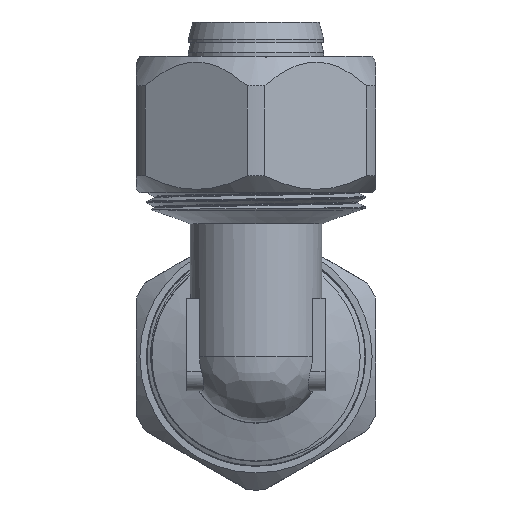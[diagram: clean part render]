
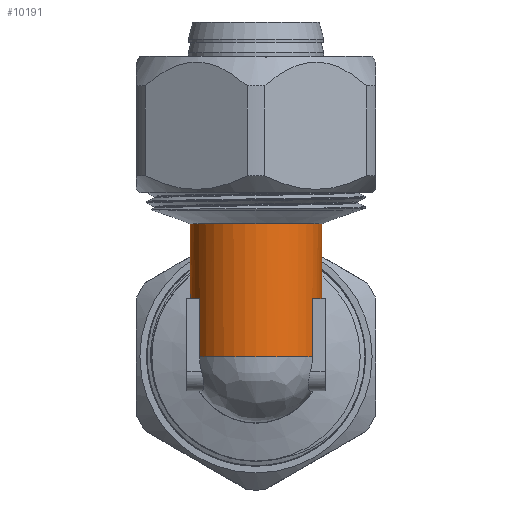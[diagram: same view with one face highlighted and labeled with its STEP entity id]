
A CAD part, front view. The second image highlights one B-rep face of the part: STEP entity #10191.
In plain terms, the highlighted cylindrical face has radius 9.65 mm (diameter 19.3 mm), a full revolution.
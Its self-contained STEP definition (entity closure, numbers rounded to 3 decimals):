
#374=ELLIPSE('',#10898,13.647,9.65);
#643=CYLINDRICAL_SURFACE('',#10896,9.65);
#1404=FACE_OUTER_BOUND('',#1993,.T.);
#1993=EDGE_LOOP('',(#6982,#6983,#6984,#6985,#6986,#6987,#6988,#6989,#6990,
#6991,#6992,#6993,#6994,#6995));
#2630=LINE('',#13435,#3290);
#2631=LINE('',#13439,#3291);
#2632=LINE('',#13443,#3292);
#2633=LINE('',#13447,#3293);
#2634=LINE('',#13451,#3294);
#3290=VECTOR('',#11548,9.65);
#3291=VECTOR('',#11551,10.);
#3292=VECTOR('',#11554,10.);
#3293=VECTOR('',#11557,10.);
#3294=VECTOR('',#11560,10.);
#3946=CIRCLE('',#10865,9.65);
#3947=CIRCLE('',#10866,9.65);
#3948=CIRCLE('',#10867,9.65);
#3968=CIRCLE('',#10897,9.65);
#3969=CIRCLE('',#10899,9.65);
#3970=CIRCLE('',#10900,9.65);
#3971=CIRCLE('',#10901,9.65);
#4212=VERTEX_POINT('',#13375);
#4213=VERTEX_POINT('',#13377);
#4214=VERTEX_POINT('',#13379);
#4233=VERTEX_POINT('',#13434);
#4234=VERTEX_POINT('',#13436);
#4235=VERTEX_POINT('',#13438);
#4236=VERTEX_POINT('',#13440);
#4237=VERTEX_POINT('',#13442);
#4238=VERTEX_POINT('',#13444);
#4239=VERTEX_POINT('',#13446);
#4240=VERTEX_POINT('',#13448);
#4241=VERTEX_POINT('',#13450);
#5308=EDGE_CURVE('',#4213,#4212,#3946,.T.);
#5309=EDGE_CURVE('',#4214,#4213,#3947,.T.);
#5310=EDGE_CURVE('',#4212,#4214,#3948,.T.);
#5335=EDGE_CURVE('',#4212,#4233,#2630,.T.);
#5336=EDGE_CURVE('',#4233,#4234,#3968,.T.);
#5337=EDGE_CURVE('',#4234,#4235,#2631,.T.);
#5338=EDGE_CURVE('',#4236,#4235,#374,.T.);
#5339=EDGE_CURVE('',#4236,#4237,#2632,.T.);
#5340=EDGE_CURVE('',#4237,#4238,#3969,.T.);
#5341=EDGE_CURVE('',#4238,#4239,#2633,.T.);
#5342=EDGE_CURVE('',#4239,#4240,#3970,.T.);
#5343=EDGE_CURVE('',#4240,#4241,#2634,.T.);
#5344=EDGE_CURVE('',#4241,#4233,#3971,.T.);
#6982=ORIENTED_EDGE('',*,*,#5308,.T.);
#6983=ORIENTED_EDGE('',*,*,#5335,.T.);
#6984=ORIENTED_EDGE('',*,*,#5336,.T.);
#6985=ORIENTED_EDGE('',*,*,#5337,.T.);
#6986=ORIENTED_EDGE('',*,*,#5338,.F.);
#6987=ORIENTED_EDGE('',*,*,#5339,.T.);
#6988=ORIENTED_EDGE('',*,*,#5340,.T.);
#6989=ORIENTED_EDGE('',*,*,#5341,.T.);
#6990=ORIENTED_EDGE('',*,*,#5342,.T.);
#6991=ORIENTED_EDGE('',*,*,#5343,.T.);
#6992=ORIENTED_EDGE('',*,*,#5344,.T.);
#6993=ORIENTED_EDGE('',*,*,#5335,.F.);
#6994=ORIENTED_EDGE('',*,*,#5310,.T.);
#6995=ORIENTED_EDGE('',*,*,#5309,.T.);
#10191=ADVANCED_FACE('',(#1404),#643,.T.);
#10865=AXIS2_PLACEMENT_3D('',#13378,#11479,#11480);
#10866=AXIS2_PLACEMENT_3D('',#13380,#11481,#11482);
#10867=AXIS2_PLACEMENT_3D('',#13381,#11483,#11484);
#10896=AXIS2_PLACEMENT_3D('',#13433,#11546,#11547);
#10897=AXIS2_PLACEMENT_3D('',#13437,#11549,#11550);
#10898=AXIS2_PLACEMENT_3D('',#13441,#11552,#11553);
#10899=AXIS2_PLACEMENT_3D('',#13445,#11555,#11556);
#10900=AXIS2_PLACEMENT_3D('',#13449,#11558,#11559);
#10901=AXIS2_PLACEMENT_3D('',#13452,#11561,#11562);
#11479=DIRECTION('center_axis',(0.,0.,-1.));
#11480=DIRECTION('ref_axis',(1.,0.,0.));
#11481=DIRECTION('center_axis',(0.,0.,-1.));
#11482=DIRECTION('ref_axis',(-1.,0.,0.));
#11483=DIRECTION('center_axis',(0.,0.,-1.));
#11484=DIRECTION('ref_axis',(1.,0.,0.));
#11546=DIRECTION('center_axis',(0.,0.,1.));
#11547=DIRECTION('ref_axis',(-1.,0.,0.));
#11548=DIRECTION('',(0.,0.,-1.));
#11549=DIRECTION('center_axis',(0.,0.,1.));
#11550=DIRECTION('ref_axis',(-1.,0.,0.));
#11551=DIRECTION('',(0.,0.,-1.));
#11552=DIRECTION('center_axis',(0.,0.707,-0.707));
#11553=DIRECTION('ref_axis',(0.,-0.707,-0.707));
#11554=DIRECTION('',(0.,0.,1.));
#11555=DIRECTION('center_axis',(0.,0.,1.));
#11556=DIRECTION('ref_axis',(-1.,0.,0.));
#11557=DIRECTION('',(0.,0.,-1.));
#11558=DIRECTION('center_axis',(0.,0.,1.));
#11559=DIRECTION('ref_axis',(-1.,0.,0.));
#11560=DIRECTION('',(0.,0.,1.));
#11561=DIRECTION('center_axis',(0.,0.,1.));
#11562=DIRECTION('ref_axis',(-1.,0.,0.));
#13375=CARTESIAN_POINT('',(9.65,-32.,19.451));
#13377=CARTESIAN_POINT('',(0.,-22.35,19.451));
#13378=CARTESIAN_POINT('Origin',(0.,-32.,19.451));
#13379=CARTESIAN_POINT('',(0.,-41.65,19.451));
#13380=CARTESIAN_POINT('Origin',(0.,-32.,19.451));
#13381=CARTESIAN_POINT('Origin',(0.,-32.,19.451));
#13433=CARTESIAN_POINT('Origin',(0.,-32.,0.));
#13434=CARTESIAN_POINT('',(9.65,-32.,8.5));
#13435=CARTESIAN_POINT('',(9.65,-32.,0.));
#13436=CARTESIAN_POINT('',(8.254,-27.,8.5));
#13437=CARTESIAN_POINT('Origin',(0.,-32.,8.5));
#13438=CARTESIAN_POINT('',(8.254,-27.,5.));
#13439=CARTESIAN_POINT('',(8.254,-27.,0.));
#13440=CARTESIAN_POINT('',(-8.254,-27.,5.));
#13441=CARTESIAN_POINT('Origin',(0.,-32.,0.));
#13442=CARTESIAN_POINT('',(-8.254,-27.,8.5));
#13443=CARTESIAN_POINT('',(-8.254,-27.,0.));
#13444=CARTESIAN_POINT('',(-8.254,-37.,8.5));
#13445=CARTESIAN_POINT('Origin',(0.,-32.,8.5));
#13446=CARTESIAN_POINT('',(-8.254,-37.,0.));
#13447=CARTESIAN_POINT('',(-8.254,-37.,0.));
#13448=CARTESIAN_POINT('',(8.254,-37.,0.));
#13449=CARTESIAN_POINT('Origin',(0.,-32.,0.));
#13450=CARTESIAN_POINT('',(8.254,-37.,8.5));
#13451=CARTESIAN_POINT('',(8.254,-37.,0.));
#13452=CARTESIAN_POINT('Origin',(0.,-32.,8.5));
